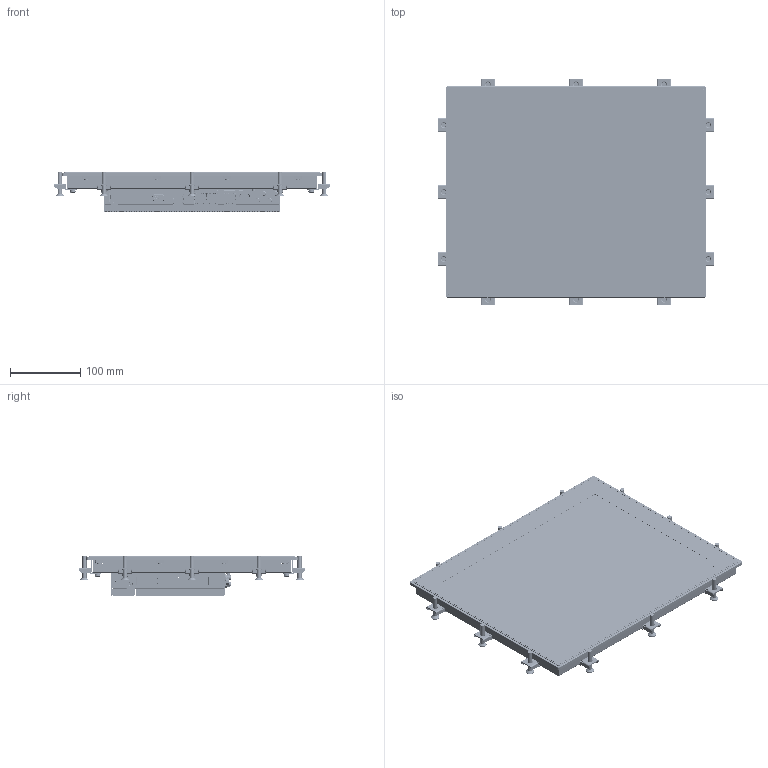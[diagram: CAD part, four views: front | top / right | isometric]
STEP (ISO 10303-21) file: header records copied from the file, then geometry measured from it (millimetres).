
FILE_DESCRIPTION((''),'2;1');
FILE_NAME('AP4C-150','2026-06-02T12:45:35',('gijyu181'),(''),'CREO PARAMETRIC BY PTC INC, 2018050','CREO PARAMETRIC BY PTC INC, 2018050','');
FILE_SCHEMA(('CONFIG_CONTROL_DESIGN','SHAPE_APPEARANCE_LAYERS_GROUPS'));
Products named in the file (1): AP4C-150
Bounding box: 391.4 x 321.4 x 57.5 mm (x, y, z)
Volume: 1662072.9 mm3; surface area: 1120092.8 mm2
Topology: 25 solids, 123 shells, 32477 faces, 93923 edges, 61923 vertices
Faces by surface type: plane 22260, cylinder 7191, extrusion 1462, cone 728, bspline 382, torus 304, sphere 138, revolution 12
Entity records: 1233396 total; most frequent: CARTESIAN_POINT 236531, ORIENTED_EDGE 186806, DIRECTION 167848, EDGE_CURVE 93831, VECTOR 73442, LINE 71980, VERTEX_POINT 61924, AXIS2_PLACEMENT_3D 47197
